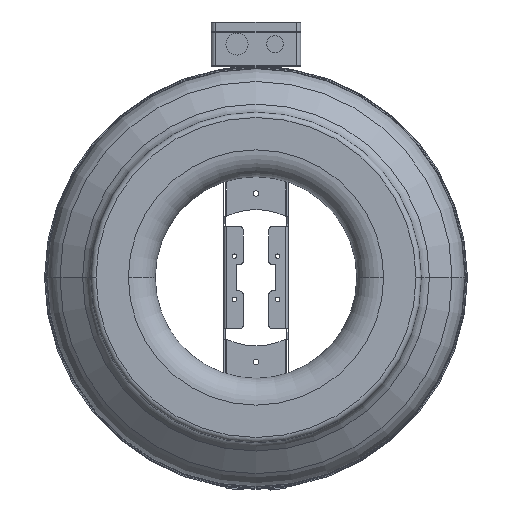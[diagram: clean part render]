
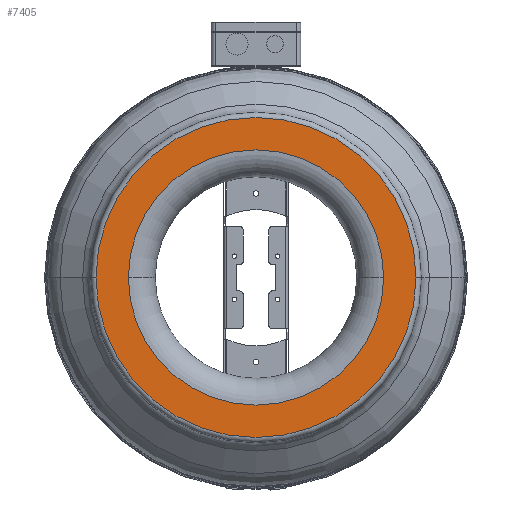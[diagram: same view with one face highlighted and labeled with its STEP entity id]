
A CAD part, top view. The second image highlights one B-rep face of the part: STEP entity #7405.
In plain terms, the highlighted planar face has unit normal (0, 0, 1).
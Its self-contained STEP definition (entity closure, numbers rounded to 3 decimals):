
#120 = AXIS2_PLACEMENT_3D ( 'NONE', #8949, #8950, #8951 ) ;
#1191 = EDGE_LOOP ( 'NONE', ( #7217, #7218 ) ) ;
#1196 = EDGE_LOOP ( 'NONE', ( #7215, #7216 ) ) ;
#3373 = CIRCLE ( 'NONE', #120, 152. ) ;
#3629 = EDGE_CURVE ( 'NONE', #7116, #7115, #3373, .T. ) ;
#3723 = CARTESIAN_POINT ( 'NONE',  ( 0., 0., 140. ) ) ;
#3724 = DIRECTION ( 'NONE',  ( 0., 0., -1. ) ) ;
#3725 = DIRECTION ( 'NONE',  ( -1., 0., 0. ) ) ;
#4148 = CARTESIAN_POINT ( 'NONE',  ( 0., 121.25, 140. ) ) ;
#4151 = PLANE ( 'NONE',  #8392 ) ;
#4153 = DIRECTION ( 'NONE',  ( 0., 0., -1. ) ) ;
#4154 = DIRECTION ( 'NONE',  ( -1., 0., 0. ) ) ;
#4358 = CARTESIAN_POINT ( 'NONE',  ( -152., 0., 140. ) ) ;
#4359 = CARTESIAN_POINT ( 'NONE',  ( 152., 0., 140. ) ) ;
#4363 = CARTESIAN_POINT ( 'NONE',  ( -121.25, 0., 140. ) ) ;
#4364 = CARTESIAN_POINT ( 'NONE',  ( 121.25, 0., 140. ) ) ;
#4672 = EDGE_CURVE ( 'NONE', #7121, #7120, #9131, .T. ) ;
#5074 = FACE_OUTER_BOUND ( 'NONE', #1196, .T. ) ;
#5084 = FACE_BOUND ( 'NONE', #1191, .T. ) ;
#5606 = CIRCLE ( 'NONE', #8472, 121.25 ) ;
#5610 = CIRCLE ( 'NONE', #8474, 152. ) ;
#6097 = AXIS2_PLACEMENT_3D ( 'NONE', #3723, #3724, #3725 ) ;
#6830 = CARTESIAN_POINT ( 'NONE',  ( 0., 0., 140. ) ) ;
#6831 = DIRECTION ( 'NONE',  ( 0., 0., -1. ) ) ;
#6832 = DIRECTION ( 'NONE',  ( -1., 0., 0. ) ) ;
#6835 = CARTESIAN_POINT ( 'NONE',  ( 0., 0., 140. ) ) ;
#6836 = DIRECTION ( 'NONE',  ( 0., 0., -1. ) ) ;
#6837 = DIRECTION ( 'NONE',  ( -1., 0., 0. ) ) ;
#7115 = VERTEX_POINT ( 'NONE', #4358 ) ;
#7116 = VERTEX_POINT ( 'NONE', #4359 ) ;
#7120 = VERTEX_POINT ( 'NONE', #4363 ) ;
#7121 = VERTEX_POINT ( 'NONE', #4364 ) ;
#7215 = ORIENTED_EDGE ( 'NONE', *, *, #7664, .F. ) ;
#7216 = ORIENTED_EDGE ( 'NONE', *, *, #3629, .F. ) ;
#7217 = ORIENTED_EDGE ( 'NONE', *, *, #7663, .T. ) ;
#7218 = ORIENTED_EDGE ( 'NONE', *, *, #4672, .T. ) ;
#7405 = ADVANCED_FACE ( 'NONE', ( #5074, #5084 ), #4151, .F. ) ;
#7663 = EDGE_CURVE ( 'NONE', #7120, #7121, #5606, .T. ) ;
#7664 = EDGE_CURVE ( 'NONE', #7115, #7116, #5610, .T. ) ;
#8392 = AXIS2_PLACEMENT_3D ( 'NONE', #4148, #4153, #4154 ) ;
#8472 = AXIS2_PLACEMENT_3D ( 'NONE', #6830, #6831, #6832 ) ;
#8474 = AXIS2_PLACEMENT_3D ( 'NONE', #6835, #6836, #6837 ) ;
#8949 = CARTESIAN_POINT ( 'NONE',  ( 0., 0., 140. ) ) ;
#8950 = DIRECTION ( 'NONE',  ( 0., 0., -1. ) ) ;
#8951 = DIRECTION ( 'NONE',  ( -1., 0., 0. ) ) ;
#9131 = CIRCLE ( 'NONE', #6097, 121.25 ) ;
